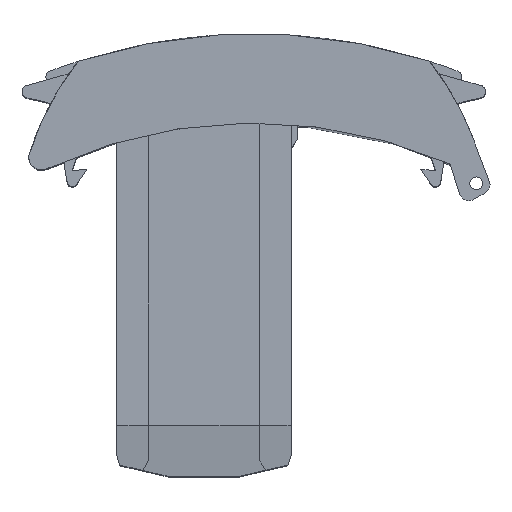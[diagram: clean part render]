
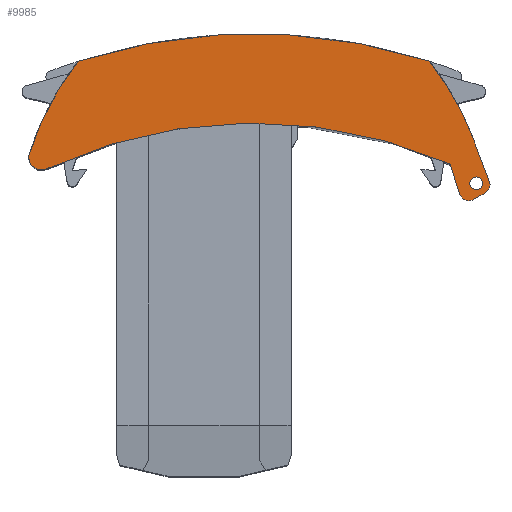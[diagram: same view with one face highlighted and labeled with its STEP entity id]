
A CAD part, top view. The second image highlights one B-rep face of the part: STEP entity #9985.
In plain terms, the highlighted planar face has unit normal (0, 0, 1).
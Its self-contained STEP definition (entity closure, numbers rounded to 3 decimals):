
#254=CARTESIAN_POINT('',(30.773,-6.399,73.35));
#255=VERTEX_POINT('',#254);
#262=CARTESIAN_POINT('',(-32.503,-7.176,73.35));
#263=VERTEX_POINT('',#262);
#264=CARTESIAN_POINT('',(0.,-77.2,73.35));
#265=DIRECTION('',(0.,-0.,1.));
#266=DIRECTION('',(-1.,-0.,0.));
#267=AXIS2_PLACEMENT_3D('',#264,#265,#266);
#268=CIRCLE('',#267,77.2);
#269=EDGE_CURVE('',#255,#263,#268,.T.);
#1267=CARTESIAN_POINT('',(-27.591,9.726,73.35));
#1268=VERTEX_POINT('',#1267);
#1275=CARTESIAN_POINT('',(27.591,9.726,73.35));
#1276=VERTEX_POINT('',#1275);
#1277=CARTESIAN_POINT('',(-0.,-77.2,73.35));
#1278=DIRECTION('',(-0.,0.,-1.));
#1279=DIRECTION('',(1.,0.,-0.));
#1280=AXIS2_PLACEMENT_3D('',#1277,#1278,#1279);
#1281=CIRCLE('',#1280,91.2);
#1282=EDGE_CURVE('',#1268,#1276,#1281,.T.);
#9870=CARTESIAN_POINT('',(33.937,-9.473,73.35));
#9871=VERTEX_POINT('',#9870);
#9880=CARTESIAN_POINT('',(34.937,-9.473,73.35));
#9881=DIRECTION('',(-0.,0.,-1.));
#9882=DIRECTION('',(-1.,-0.,0.));
#9883=AXIS2_PLACEMENT_3D('',#9880,#9881,#9882);
#9884=CIRCLE('',#9883,1.);
#9885=EDGE_CURVE('',#9871,#9871,#9884,.T.);
#9890=CARTESIAN_POINT('',(28.565,3.501,73.35));
#9891=DIRECTION('',(-0.,0.,-1.));
#9892=DIRECTION('',(-1.,-0.,0.));
#9893=AXIS2_PLACEMENT_3D('',#9890,#9891,#9892);
#9894=PLANE('',#9893);
#9895=CARTESIAN_POINT('',(34.405,-2.352,73.35));
#9896=VERTEX_POINT('',#9895);
#9897=CARTESIAN_POINT('',(37.,-9.132,73.35));
#9898=VERTEX_POINT('',#9897);
#9899=CARTESIAN_POINT('',(34.405,-2.352,73.35));
#9900=DIRECTION('',(0.357,-0.934,-0.));
#9901=VECTOR('',#9900,7.26);
#9902=LINE('',#9899,#9901);
#9903=EDGE_CURVE('',#9896,#9898,#9902,.T.);
#9904=ORIENTED_EDGE('',*,*,#9903,.F.);
#9905=CARTESIAN_POINT('',(-9.49,-19.153,73.35));
#9906=DIRECTION('',(-0.,0.,-1.));
#9907=DIRECTION('',(-1.,-0.,0.));
#9908=AXIS2_PLACEMENT_3D('',#9905,#9906,#9907);
#9909=CIRCLE('',#9908,47.);
#9910=EDGE_CURVE('',#1276,#9896,#9909,.T.);
#9911=ORIENTED_EDGE('',*,*,#9910,.F.);
#9912=ORIENTED_EDGE('',*,*,#1282,.F.);
#9913=CARTESIAN_POINT('',(-35.249,-4.749,73.35));
#9914=VERTEX_POINT('',#9913);
#9915=CARTESIAN_POINT('',(9.49,-19.153,73.35));
#9916=DIRECTION('',(0.,-0.,1.));
#9917=DIRECTION('',(1.,0.,-0.));
#9918=AXIS2_PLACEMENT_3D('',#9915,#9916,#9917);
#9919=CIRCLE('',#9918,47.);
#9920=EDGE_CURVE('',#1268,#9914,#9919,.T.);
#9921=ORIENTED_EDGE('',*,*,#9920,.T.);
#9922=CARTESIAN_POINT('',(-35.345,-5.362,73.35));
#9923=VERTEX_POINT('',#9922);
#9924=CARTESIAN_POINT('',(-33.345,-5.362,73.35));
#9925=DIRECTION('',(0.,-0.,1.));
#9926=DIRECTION('',(1.,0.,-0.));
#9927=AXIS2_PLACEMENT_3D('',#9924,#9925,#9926);
#9928=CIRCLE('',#9927,2.);
#9929=EDGE_CURVE('',#9914,#9923,#9928,.T.);
#9930=ORIENTED_EDGE('',*,*,#9929,.T.);
#9931=CARTESIAN_POINT('',(-33.345,-5.362,73.35));
#9932=DIRECTION('',(0.,-0.,1.));
#9933=DIRECTION('',(1.,0.,-0.));
#9934=AXIS2_PLACEMENT_3D('',#9931,#9932,#9933);
#9935=CIRCLE('',#9934,2.);
#9936=EDGE_CURVE('',#9923,#263,#9935,.T.);
#9937=ORIENTED_EDGE('',*,*,#9936,.T.);
#9938=ORIENTED_EDGE('',*,*,#269,.F.);
#9939=CARTESIAN_POINT('',(32.343,-11.192,73.35));
#9940=VERTEX_POINT('',#9939);
#9941=CARTESIAN_POINT('',(32.343,-11.192,73.35));
#9942=DIRECTION('',(-0.311,0.95,0.));
#9943=VECTOR('',#9942,5.044);
#9944=LINE('',#9941,#9943);
#9945=EDGE_CURVE('',#9940,#255,#9944,.T.);
#9946=ORIENTED_EDGE('',*,*,#9945,.F.);
#9947=CARTESIAN_POINT('',(34.518,-12.024,73.35));
#9948=VERTEX_POINT('',#9947);
#9949=CARTESIAN_POINT('',(33.768,-10.725,73.35));
#9950=DIRECTION('',(-0.,0.,-1.));
#9951=DIRECTION('',(-1.,-0.,0.));
#9952=AXIS2_PLACEMENT_3D('',#9949,#9950,#9951);
#9953=CIRCLE('',#9952,1.5);
#9954=EDGE_CURVE('',#9948,#9940,#9953,.T.);
#9955=ORIENTED_EDGE('',*,*,#9954,.F.);
#9956=CARTESIAN_POINT('',(36.349,-10.967,73.35));
#9957=VERTEX_POINT('',#9956);
#9958=CARTESIAN_POINT('',(36.349,-10.967,73.35));
#9959=DIRECTION('',(-0.866,-0.5,0.));
#9960=VECTOR('',#9959,2.114);
#9961=LINE('',#9958,#9960);
#9962=EDGE_CURVE('',#9957,#9948,#9961,.T.);
#9963=ORIENTED_EDGE('',*,*,#9962,.F.);
#9964=CARTESIAN_POINT('',(37.099,-9.668,73.35));
#9965=VERTEX_POINT('',#9964);
#9966=CARTESIAN_POINT('',(35.599,-9.668,73.35));
#9967=DIRECTION('',(-0.,0.,-1.));
#9968=DIRECTION('',(-1.,-0.,0.));
#9969=AXIS2_PLACEMENT_3D('',#9966,#9967,#9968);
#9970=CIRCLE('',#9969,1.5);
#9971=EDGE_CURVE('',#9965,#9957,#9970,.T.);
#9972=ORIENTED_EDGE('',*,*,#9971,.F.);
#9973=CARTESIAN_POINT('',(35.599,-9.668,73.35));
#9974=DIRECTION('',(-0.,0.,-1.));
#9975=DIRECTION('',(-1.,-0.,0.));
#9976=AXIS2_PLACEMENT_3D('',#9973,#9974,#9975);
#9977=CIRCLE('',#9976,1.5);
#9978=EDGE_CURVE('',#9898,#9965,#9977,.T.);
#9979=ORIENTED_EDGE('',*,*,#9978,.F.);
#9980=EDGE_LOOP('',(#9904,#9911,#9912,#9921,#9930,#9937,#9938,#9946,#9955,#9963,#9972,#9979));
#9981=FACE_BOUND('',#9980,.T.);
#9982=ORIENTED_EDGE('',*,*,#9885,.T.);
#9983=EDGE_LOOP('',(#9982));
#9984=FACE_BOUND('',#9983,.T.);
#9985=ADVANCED_FACE('',(#9981,#9984),#9894,.F.);
